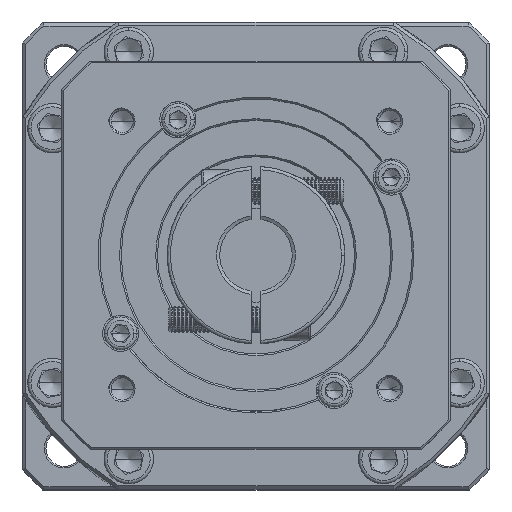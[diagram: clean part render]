
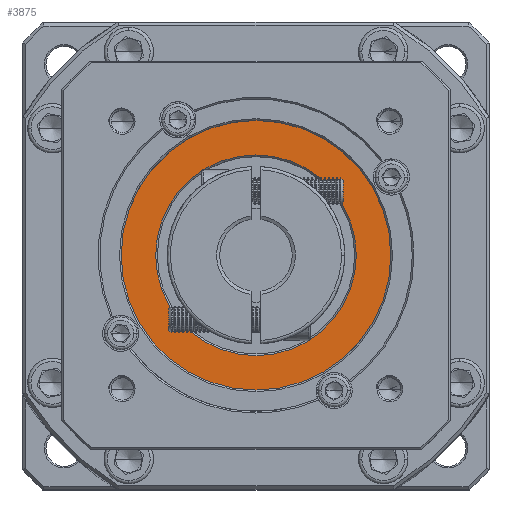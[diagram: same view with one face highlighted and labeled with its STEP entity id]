
A CAD part, top view. The second image highlights one B-rep face of the part: STEP entity #3875.
In plain terms, the highlighted planar face has unit normal (0, 0, 1).
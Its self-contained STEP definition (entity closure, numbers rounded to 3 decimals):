
#2430 = VERTEX_POINT ( 'NONE', #50110 ) ;
#3875 = ADVANCED_FACE ( 'NONE', ( #58235, #59779 ), #127759, .T. ) ;
#5295 = AXIS2_PLACEMENT_3D ( 'NONE', #13303, #73621, #24244 ) ;
#13303 = CARTESIAN_POINT ( 'NONE',  ( 64.59, 123.633, 0.639 ) ) ;
#14952 = DIRECTION ( 'NONE',  ( 0., 0., 1. ) ) ;
#15933 = DIRECTION ( 'NONE',  ( 0., 0., -1. ) ) ;
#18545 = DIRECTION ( 'NONE',  ( 0., 0., 1. ) ) ;
#19380 = EDGE_LOOP ( 'NONE', ( #32761, #43259 ) ) ;
#24244 = DIRECTION ( 'NONE',  ( 1., 0., 0. ) ) ;
#25436 = CARTESIAN_POINT ( 'NONE',  ( 64.59, 123.633, 0.639 ) ) ;
#30009 = AXIS2_PLACEMENT_3D ( 'NONE', #25436, #14952, #84346 ) ;
#32368 = EDGE_CURVE ( 'NONE', #52737, #85120, #63812, .T. ) ;
#32761 = ORIENTED_EDGE ( 'NONE', *, *, #41073, .T. ) ;
#41073 = EDGE_CURVE ( 'NONE', #85120, #52737, #84970, .T. ) ;
#43259 = ORIENTED_EDGE ( 'NONE', *, *, #32368, .T. ) ;
#45042 = CARTESIAN_POINT ( 'NONE',  ( 34.09, 123.633, 0.639 ) ) ;
#45793 = CARTESIAN_POINT ( 'NONE',  ( 105.59, 123.633, 0.639 ) ) ;
#47955 = CIRCLE ( 'NONE', #5295, 41. ) ;
#50110 = CARTESIAN_POINT ( 'NONE',  ( 23.59, 123.633, 0.639 ) ) ;
#50552 = DIRECTION ( 'NONE',  ( 1., 0., 0. ) ) ;
#52162 = CIRCLE ( 'NONE', #30009, 41. ) ;
#52737 = VERTEX_POINT ( 'NONE', #45042 ) ;
#56995 = DIRECTION ( 'NONE',  ( 1., 0., 0. ) ) ;
#57423 = AXIS2_PLACEMENT_3D ( 'NONE', #71962, #91178, #50552 ) ;
#58235 = FACE_OUTER_BOUND ( 'NONE', #102292, .T. ) ;
#59779 = FACE_BOUND ( 'NONE', #19380, .T. ) ;
#63812 = CIRCLE ( 'NONE', #57423, 30.5 ) ;
#69556 = VERTEX_POINT ( 'NONE', #45793 ) ;
#70884 = AXIS2_PLACEMENT_3D ( 'NONE', #114708, #15933, #85786 ) ;
#71962 = CARTESIAN_POINT ( 'NONE',  ( 64.59, 123.633, 0.639 ) ) ;
#72803 = AXIS2_PLACEMENT_3D ( 'NONE', #118148, #18545, #56995 ) ;
#73621 = DIRECTION ( 'NONE',  ( 0., 0., 1. ) ) ;
#84346 = DIRECTION ( 'NONE',  ( 1., 0., 0. ) ) ;
#84970 = CIRCLE ( 'NONE', #70884, 30.5 ) ;
#85120 = VERTEX_POINT ( 'NONE', #106322 ) ;
#85786 = DIRECTION ( 'NONE',  ( 1., 0., 0. ) ) ;
#91178 = DIRECTION ( 'NONE',  ( 0., 0., -1. ) ) ;
#97714 = EDGE_CURVE ( 'NONE', #69556, #2430, #47955, .T. ) ;
#100744 = EDGE_CURVE ( 'NONE', #2430, #69556, #52162, .T. ) ;
#102292 = EDGE_LOOP ( 'NONE', ( #116648, #116915 ) ) ;
#106322 = CARTESIAN_POINT ( 'NONE',  ( 95.09, 123.633, 0.639 ) ) ;
#114708 = CARTESIAN_POINT ( 'NONE',  ( 64.59, 123.633, 0.639 ) ) ;
#116648 = ORIENTED_EDGE ( 'NONE', *, *, #97714, .T. ) ;
#116915 = ORIENTED_EDGE ( 'NONE', *, *, #100744, .T. ) ;
#118148 = CARTESIAN_POINT ( 'NONE',  ( 64.59, 123.633, 0.639 ) ) ;
#127759 = PLANE ( 'NONE',  #72803 ) ;
